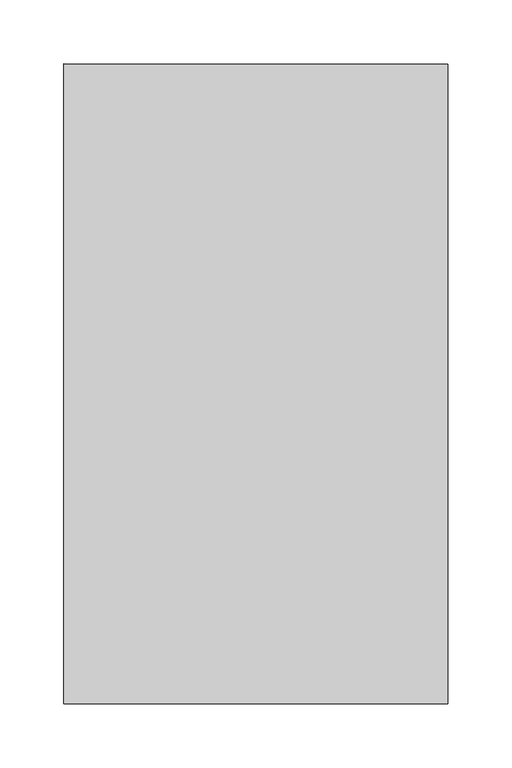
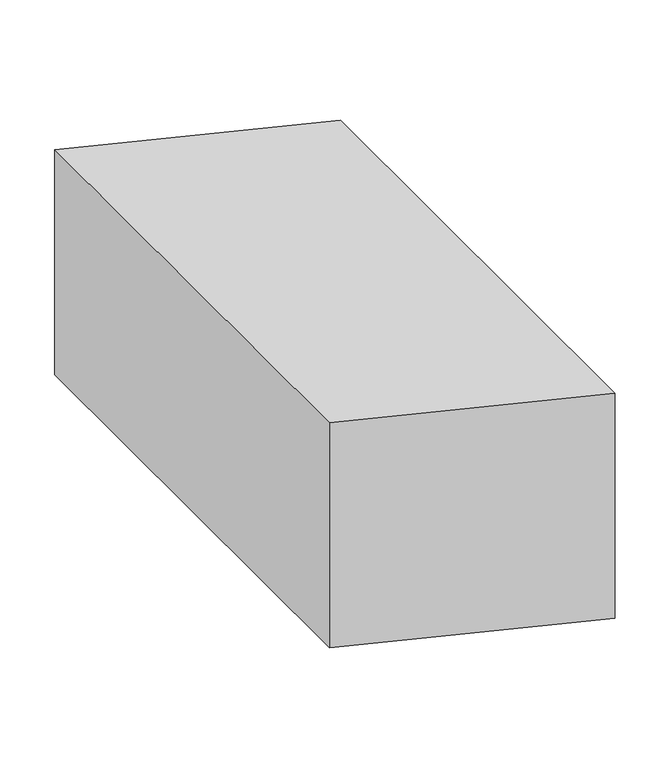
"""IFC4 building model written with IfcOpenShell, lengths in millimetres: duct fitting geometry, ADSK_ПереходникВоздуховодов_Прямоугольный1 : Стандартное 2."""

from ifc_helpers import new_model, si_unit, origin, place, context, project, spatial, faceted_brep, source, transform, mapped, element, save


def duct_fitting_ed6efd35(model_context):
    return source(origin(), model_context, "Body", "Brep", [
        faceted_brep([(300.0, -250.0206593, 52.5126295), (300.0, -250.0206593, -197.4873705), (300.0, 249.9793407, -197.4873705), (300.0, 249.9793407, 52.5126295), (0.0, -250.0, 125.0), (0.0, 250.0, 125.0), (0.0, 250.0, -125.0), (0.0, -250.0, -125.0)], [[[0, 1, 2, 3]], [[4, 5, 6, 7]], [[4, 7, 1, 0]], [[7, 6, 2, 1]], [[6, 5, 3, 2]], [[5, 4, 0, 3]]]),
    ])


if __name__ == "__main__":
    model = new_model("IFC4")
    model_context = context("Model", 3, world=origin())
    ifc_project = project(units=[si_unit("LENGTHUNIT", "METRE", prefix="MILLI")], contexts=[model_context])
    site = spatial("IfcSite", under=ifc_project)
    building = spatial("IfcBuilding", under=site)
    placement = place(None, origin())
    duct_fitting_shape = duct_fitting_ed6efd35(model_context)
    element("IfcDuctFitting", 1, ObjectType="ADSK_ПереходникВоздуховодов_Прямоугольный1 : Стандартное 2", at=placement, inside=building, context=model_context, shape_type="MappedRepresentation", body=[
        mapped(duct_fitting_shape, transform((0.0, 0.0, 0.0), x_axis=(1.0, 0.0, 0.0), y_axis=(0.0, 1.0, 0.0), z_axis=(0.0, 0.0, 1.0))),
    ])
    save(model, "model.ifc")
